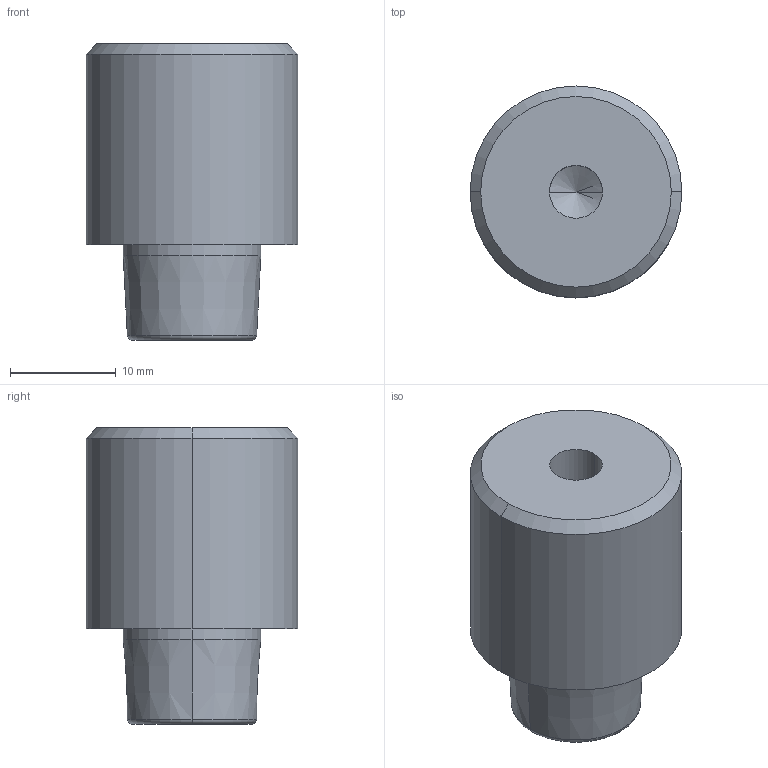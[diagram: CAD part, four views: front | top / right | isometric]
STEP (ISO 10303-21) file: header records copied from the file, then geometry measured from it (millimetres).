
FILE_DESCRIPTION (( 'STEP AP214' ), '1' );
FILE_NAME ('ZTPNP20-3.STEP', '2024-06-04T14:48:21', ( '' ), ( '' ), 'SwSTEP 2.0', 'SolidWorks 2017', '' );
FILE_SCHEMA (( 'AUTOMOTIVE_DESIGN' ));
Length unit declared in the file: millimetre
Products named in the file (1): ZTPNP20-3
Bounding box: 20 x 20 x 28 mm (x, y, z)
Volume: 6779.7 mm3; surface area: 2340.7 mm2
Topology: 1 solids, 1 shells, 17 faces, 34 edges, 19 vertices
Faces by surface type: cylinder 6, cone 6, plane 3, torus 2
Entity records: 486 total; most frequent: DIRECTION 88, CARTESIAN_POINT 69, ORIENTED_EDGE 64, AXIS2_PLACEMENT_3D 38, EDGE_CURVE 32, CIRCLE 20, VERTEX_POINT 19, EDGE_LOOP 19
